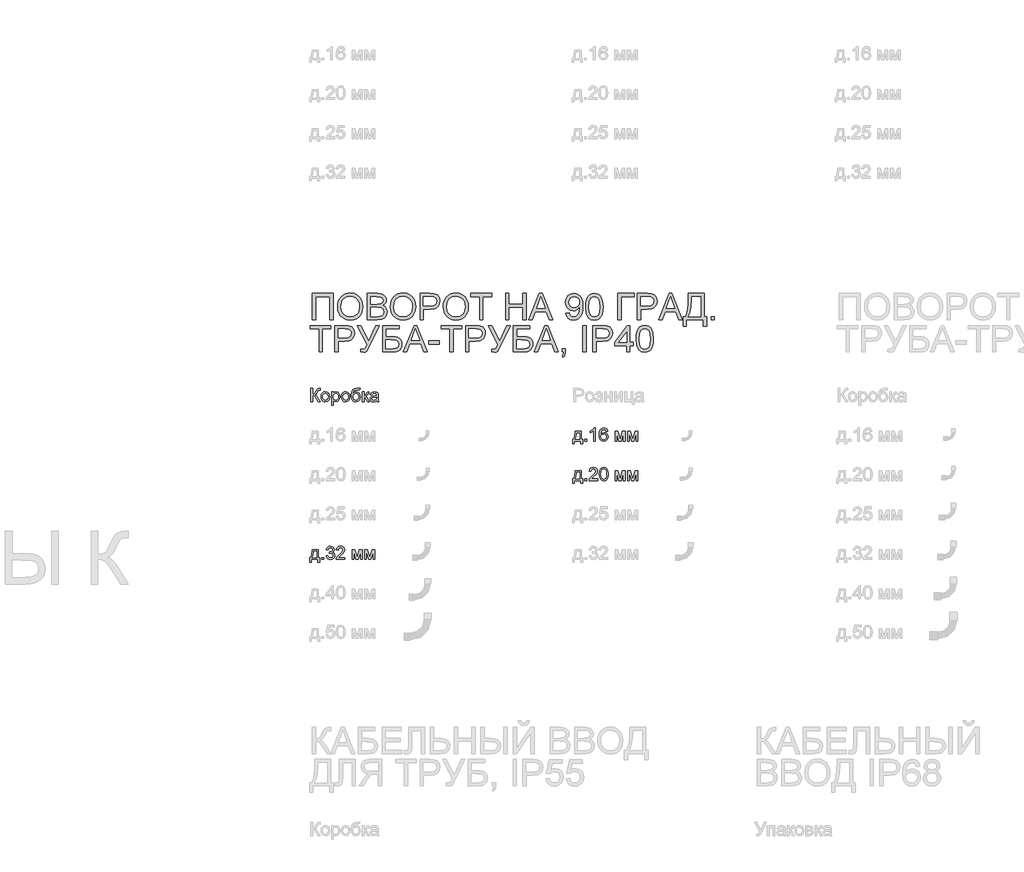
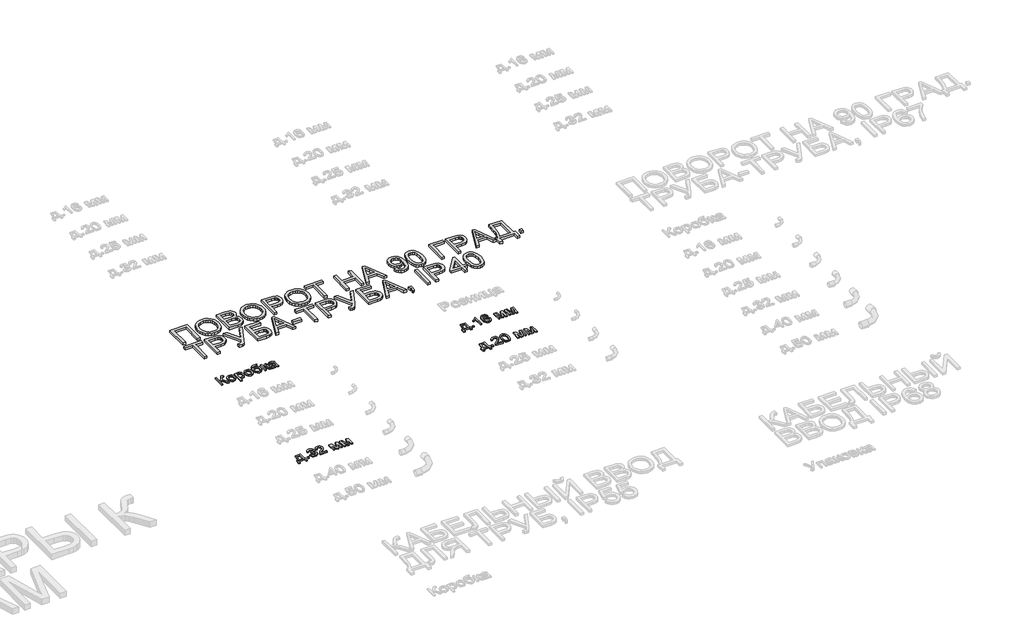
# One storey, part 63 of 98: 5 proxies.
"""IFC4 building model written with IfcOpenShell, lengths in millimetres."""

from ifc_helpers import new_model, si_unit, origin, origin_with_axes, place, context, project, spatial, polyline, outline, extrude, element, save

model = new_model("IFC4")

# Units and contexts
model_context = context("Model", 3, world=origin())
ifc_project = project(units=[si_unit("LENGTHUNIT", "METRE", prefix="MILLI")], contexts=[model_context])

# Site, building, storey
site = spatial("IfcSite", under=ifc_project)
building = spatial("IfcBuilding", under=site)
storey = spatial("IfcBuildingStorey", under=building, Name="Этаж 01", Elevation=0.0)

# Proxies
placement = place(None, origin())
element("IfcBuildingElementProxy", 1, Name="100", ObjectType="100", at=placement, inside=storey, context=model_context, shape_type="SweptSolid", body=[
    extrude(outline(polyline([(-36.4035925, -20659.0558563), (-23.8465538, -20659.0558563), (-23.8465538, -20703.005492), (-9.8057243, -20699.6822913), (-0.0078005, -20682.8700841), (6.9206438, -20668.8292546), (14.768793, -20661.8762849), (25.9891938, -20659.0558563), (34.2297505, -20659.2030091), (34.2297505, -20671.7600479), (31.4583728, -20671.6864715), (28.6869951, -20671.6128951), (18.8768086, -20674.6295274), (11.4210668, -20687.5544482), (2.5305853, -20703.2997976), (-6.1391671, -20708.4991965), (3.5545235, -20714.1768419), (13.113324, -20726.0103794), (34.2297505, -20759.5121665), (19.6616235, -20759.5121665), (1.807084, -20731.2097783), (-10.7622175, -20716.4331848), (-23.8465538, -20712.4232711), (-23.8465538, -20759.5121665), (-36.4035925, -20759.5121665), (-36.4035925, -20659.0558563)])), origin_with_axes(), (0.0, 0.0, 1.0), 10.0),
    extrude(outline(polyline([(40.5082699, -20722.6258651), (43.2244653, -20704.8387706), (51.3730515, -20692.3369141), (61.4407554, -20686.2116789), (73.4950221, -20684.1699338), (86.6866574, -20686.656203), (97.2234108, -20694.1150104), (104.1303953, -20705.957745), (106.4327234, -20721.5957955), (102.361496, -20743.9384953), (90.5034331, -20756.5813732), (73.4950221, -20761.0817963), (60.1439714, -20758.6047242), (49.6194807, -20751.1735079), (42.7860726, -20739.082453), (40.5082699, -20722.6258651)]), holes=[polyline([(53.0653087, -20722.6013396), (54.5184426, -20733.9658276), (58.8778442, -20742.0622972), (65.4384065, -20746.9091424), (73.4950221, -20748.5247575), (81.5148496, -20746.8999454), (88.0631492, -20742.025509), (92.4225508, -20733.8217405), (93.8756847, -20722.2089321), (92.4133537, -20711.175538), (88.026361, -20703.189433), (81.4688644, -20698.3425877), (73.4950221, -20696.7269726), (65.4384065, -20698.3364563), (58.8778442, -20703.1649075), (54.5184426, -20711.242983), (53.0653087, -20722.6013396)])]), origin_with_axes(), (0.0, 0.0, 1.0), 10.0),
    extrude(outline(polyline([(120.5593921, -20787.7655037), (120.5593921, -20685.7395637), (133.1164308, -20685.7395637), (133.1164308, -20698.0513478), (141.7984459, -20687.6402873), (153.5216188, -20684.1699338), (169.4386465, -20689.0259762), (179.8374442, -20702.7111864), (183.3445859, -20722.0617793), (179.3837231, -20742.4056537), (167.8812794, -20756.2625422), (152.0010399, -20761.0817963), (141.0749447, -20757.8566975), (133.1164308, -20749.7019799), (133.1164308, -20787.7655037), (120.5593921, -20787.7655037)]), holes=[polyline([(133.1164308, -20723.2144763), (134.4745285, -20734.4716653), (138.5488216, -20742.34434), (144.5606266, -20746.9796532), (151.7312598, -20748.5247575), (159.018389, -20746.9244709), (165.1834781, -20742.1236108), (169.3865299, -20733.9627619), (170.7875471, -20722.2825085), (169.4202524, -20711.0866332), (165.3183681, -20703.1035939), (159.3157603, -20698.3211279), (152.2462946, -20696.7269726), (145.1492378, -20698.4222955), (138.9167036, -20703.5082641), (134.566499, -20711.8254628), (133.1164308, -20723.2144763)])]), origin_with_axes(), (0.0, 0.0, 1.0), 10.0),
    extrude(outline(polyline([(194.3319948, -20722.6258651), (197.0481902, -20704.8387706), (205.1967764, -20692.3369141), (215.2644804, -20686.2116789), (227.3187471, -20684.1699338), (240.5103823, -20686.656203), (251.0471358, -20694.1150104), (257.9541202, -20705.957745), (260.2564484, -20721.5957955), (256.185221, -20743.9384953), (244.327158, -20756.5813732), (227.3187471, -20761.0817963), (213.9676963, -20758.6047242), (203.4432056, -20751.1735079), (196.6097975, -20739.082453), (194.3319948, -20722.6258651)]), holes=[polyline([(206.8890336, -20722.6013396), (208.3421675, -20733.9658276), (212.7015691, -20742.0622972), (219.2621314, -20746.9091424), (227.3187471, -20748.5247575), (235.3385746, -20746.8999454), (241.8868741, -20742.025509), (246.2462757, -20733.8217405), (247.6994096, -20722.2089321), (246.2370787, -20711.175538), (241.8500859, -20703.189433), (235.2925893, -20698.3425877), (227.3187471, -20696.7269726), (219.2621314, -20698.3364563), (212.7015691, -20703.1649075), (208.3421675, -20711.242983), (206.8890336, -20722.6013396)])]), origin_with_axes(), (0.0, 0.0, 1.0), 10.0),
    extrude(outline(polyline([(326.1809019, -20657.4862265), (337.1683108, -20657.4862265), (333.9309493, -20667.2841503), (327.5298025, -20670.8280802), (312.1523351, -20671.6128951), (291.4405788, -20674.5069001), (283.4943277, -20683.7775264), (280.8087892, -20700.1850634), (291.6858335, -20688.1675849), (305.7021375, -20684.1699338), (318.7680797, -20686.7113853), (329.3692125, -20694.3357396), (336.3957586, -20706.2949702), (338.7379407, -20721.8410502), (334.0903648, -20743.447986), (323.0661677, -20756.4832714), (305.7021375, -20761.0817963), (294.3683064, -20759.6010713), (285.873298, -20755.1588962), (275.0207791, -20740.002158), (271.2438573, -20707.8370089), (273.6258932, -20683.7438039), (280.772001, -20669.0499838), (292.8599902, -20661.5543882), (310.0676705, -20659.0558563), (324.0471863, -20658.7738134), (326.1809019, -20657.4862265)]), holes=[polyline([(326.1809019, -20721.4486427), (324.8197385, -20711.5679454), (320.7362484, -20703.6554169), (314.1756861, -20698.4590837), (305.3833064, -20696.7269726), (296.2169134, -20698.5571855), (289.4172278, -20704.0478243), (285.204979, -20712.598015), (283.8008961, -20723.6068837), (285.3521318, -20734.2785273), (290.005839, -20742.1113481), (296.9342833, -20746.9214052), (305.30973, -20748.5247575), (313.7280964, -20746.6700191), (320.3928918, -20741.105804), (324.7338994, -20732.4820369), (326.1809019, -20721.4486427)])]), origin_with_axes(), (0.0, 0.0, 1.0), 10.0),
    extrude(outline(polyline([(354.4342391, -20685.7395637), (366.9912779, -20685.7395637), (366.9912779, -20717.1321606), (375.4035129, -20714.8758177), (382.2951689, -20701.7301677), (388.0218653, -20690.3871396), (393.0741114, -20686.6960569), (402.2588985, -20685.7395637), (404.6623942, -20685.7395637), (404.6623942, -20698.3701789), (401.2778798, -20698.2966025), (395.1465133, -20699.6209776), (390.8300312, -20707.8860598), (385.7655224, -20716.8255923), (378.6653999, -20721.203388), (386.5871255, -20726.0900872), (394.3616983, -20736.3846517), (407.8016539, -20759.5121665), (393.5278325, -20759.5121665), (380.3576571, -20736.875161), (373.7357811, -20727.2979664), (366.9912779, -20724.9803098), (366.9912779, -20759.5121665), (354.4342391, -20759.5121665), (354.4342391, -20685.7395637)])), origin_with_axes(), (0.0, 0.0, 1.0), 10.0),
    extrude(outline(polyline([(462.7386985, -20750.0943874), (450.5618045, -20758.6047242), (437.1095862, -20761.0817963), (426.6157523, -20759.5918742), (418.874902, -20755.122108), (414.1016331, -20748.3346852), (412.5105434, -20739.8917934), (414.9140391, -20729.9589795), (421.2293467, -20722.7484924), (430.0217264, -20718.6282141), (440.886508, -20716.7397532), (462.6651221, -20712.4232711), (462.7386985, -20709.6273679), (459.2806078, -20700.3567416), (445.3991938, -20696.7269726), (432.6950022, -20699.142731), (426.637212, -20707.7143815), (414.0801733, -20706.1447517), (419.5125641, -20693.8820185), (430.4509221, -20686.6960569), (447.0178746, -20684.1699338), (462.2359264, -20686.4017513), (470.8321024, -20692.0058203), (474.6826006, -20700.5284199), (475.2957373, -20711.5158288), (475.2957373, -20727.1385509), (475.9333994, -20748.9539532), (478.434997, -20759.5121665), (465.8779582, -20759.5121665), (462.7386985, -20750.0943874)]), holes=[polyline([(462.7386985, -20724.9803098), (442.4806633, -20728.8308081), (431.6771954, -20730.8664218), (426.7843648, -20734.1773597), (425.0675822, -20739.0088766), (428.8077158, -20745.8024308), (439.782862, -20748.5247575), (452.4870536, -20745.5203879), (460.6785593, -20738.2485871), (462.6651221, -20728.5365025), (462.7386985, -20724.9803098)])]), origin_with_axes(), (0.0, 0.0, 1.0), 10.0),
])
element("IfcBuildingElementProxy", 2, Name="100", ObjectType="100", at=placement, inside=storey, context=model_context, shape_type="SweptSolid", body=[
    extrude(outline(polyline([(-26.9858135, -21885.7395637), (20.1030819, -21885.7395637), (20.1030819, -21946.9551277), (29.520861, -21946.9551277), (29.520861, -21979.9173545), (16.9638222, -21979.9173545), (16.9638222, -21959.5121665), (-34.8339627, -21959.5121665), (-34.8339627, -21979.9173545), (-47.3910015, -21979.9173545), (-47.3910015, -21946.9551277), (-39.5428522, -21946.9551277), (-29.8430303, -21923.0060098), (-26.9858135, -21885.7395637)]), holes=[polyline([(-15.9984045, -21898.2966025), (-18.9414605, -21926.905559), (-25.4161836, -21946.9551277), (7.5460431, -21946.9551277), (7.5460431, -21898.2966025), (-15.9984045, -21898.2966025)])]), origin_with_axes(), (0.0, 0.0, 1.0), 10.0),
    extrude(outline(polyline([(46.7867893, -21959.5121665), (46.7867893, -21946.9551277), (59.3438281, -21946.9551277), (59.3438281, -21959.5121665), (46.7867893, -21959.5121665)])), origin_with_axes(), (0.0, 0.0, 1.0), 10.0),
    extrude(outline(polyline([(79.7490161, -21932.8284591), (92.3060548, -21931.2588292), (99.2344991, -21944.4780556), (112.196208, -21948.5247575), (120.8046467, -21947.1329373), (127.4510481, -21942.9574767), (133.1164308, -21929.1741646), (127.500099, -21916.1879302), (113.2262776, -21911.049845), (104.4216352, -21912.4232711), (105.8195868, -21899.8662323), (107.830675, -21900.0133851), (122.079971, -21896.4081416), (126.8256487, -21891.8341421), (128.4075413, -21885.3226308), (123.8212791, -21875.5001815), (112.0000043, -21871.6128951), (100.0315767, -21875.5369697), (93.8756847, -21887.3091935), (81.3186459, -21885.7395637), (85.01586, -21874.4639805), (91.5948163, -21866.0456142), (100.5956625, -21860.8032958), (111.5585459, -21859.0558563), (126.7030214, -21862.5016843), (137.2980228, -21871.9194634), (140.9645801, -21884.5868668), (137.4819638, -21896.1628869), (127.181268, -21904.47702), (140.8664782, -21913.0609332), (145.6734696, -21929.3948938), (143.2699739, -21941.6331015), (136.0594868, -21951.860221), (125.1763111, -21958.7764025), (111.7547496, -21961.0817963), (99.6146438, -21959.1136276), (89.7308809, -21953.2091216), (82.8576189, -21944.1776186), (79.7490161, -21932.8284591)])), origin_with_axes(), (0.0, 0.0, 1.0), 10.0),
    extrude(outline(polyline([(221.0157022, -21946.9551277), (221.0157022, -21959.5121665), (155.0912487, -21959.5121665), (156.4401493, -21950.8546768), (164.0675694, -21937.5250859), (179.7883933, -21922.9692216), (201.4689055, -21902.0489988), (206.8890336, -21887.8242283), (201.7754739, -21876.3095219), (188.4213574, -21871.6128951), (174.5031553, -21876.1991573), (169.2179173, -21888.8788234), (156.6608785, -21887.3091935), (159.705102, -21875.1629563), (166.2871241, -21866.2908689), (176.0635881, -21860.8646095), (188.6911376, -21859.0558563), (201.4106576, -21861.0669445), (211.1687275, -21867.1002093), (217.3767361, -21876.1133182), (219.4460724, -21887.0639389), (217.2142549, -21898.9710528), (209.7953014, -21911.2828369), (191.8058718, -21928.4874515), (177.3603721, -21940.5662437), (171.6949894, -21946.9551277), (221.0157022, -21946.9551277)])), origin_with_axes(), (0.0, 0.0, 1.0), 10.0),
    extrude(outline(polyline([(275.9527468, -21885.7395637), (297.5596827, -21885.7395637), (314.2124743, -21944.7968867), (332.1651157, -21885.7395637), (352.8646093, -21885.7395637), (352.8646093, -21959.5121665), (340.3075705, -21959.5121665), (340.3075705, -21900.111487), (322.2568273, -21959.5121665), (305.7757139, -21959.5121665), (288.5097856, -21897.2665329), (288.5097856, -21959.5121665), (275.9527468, -21959.5121665), (275.9527468, -21885.7395637)])), origin_with_axes(), (0.0, 0.0, 1.0), 10.0),
    extrude(outline(polyline([(371.7001674, -21885.7395637), (393.3071033, -21885.7395637), (409.9598949, -21944.7968867), (427.9125363, -21885.7395637), (448.6120299, -21885.7395637), (448.6120299, -21959.5121665), (436.0549911, -21959.5121665), (436.0549911, -21900.111487), (418.0042479, -21959.5121665), (401.5231345, -21959.5121665), (384.2572062, -21897.2665329), (384.2572062, -21959.5121665), (371.7001674, -21959.5121665), (371.7001674, -21885.7395637)])), origin_with_axes(), (0.0, 0.0, 1.0), 10.0),
])
element("IfcBuildingElementProxy", 3, Name="100", ObjectType="100", at=placement, inside=storey, context=model_context, shape_type="SweptSolid", body=[
    extrude(outline(polyline([(1973.0141865, -20985.7395637), (2020.1030819, -20985.7395637), (2020.1030819, -21046.9551277), (2029.520861, -21046.9551277), (2029.520861, -21079.9173545), (2016.9638222, -21079.9173545), (2016.9638222, -21059.5121665), (1965.1660373, -21059.5121665), (1965.1660373, -21079.9173545), (1952.6089985, -21079.9173545), (1952.6089985, -21046.9551277), (1960.4571478, -21046.9551277), (1970.1569697, -21023.0060098), (1973.0141865, -20985.7395637)]), holes=[polyline([(1984.0015955, -20998.2966025), (1981.0585395, -21026.905559), (1974.5838164, -21046.9551277), (2007.5460431, -21046.9551277), (2007.5460431, -20998.2966025), (1984.0015955, -20998.2966025)])]), origin_with_axes(), (0.0, 0.0, 1.0), 10.0),
    extrude(outline(polyline([(2046.7867893, -21059.5121665), (2046.7867893, -21046.9551277), (2059.3438281, -21046.9551277), (2059.3438281, -21059.5121665), (2046.7867893, -21059.5121665)])), origin_with_axes(), (0.0, 0.0, 1.0), 10.0),
    extrude(outline(polyline([(2126.8379114, -21059.5121665), (2114.2808727, -21059.5121665), (2114.2808727, -20981.2268779), (2102.3860215, -20989.7004265), (2089.1667951, -20996.0402596), (2089.1667951, -20984.1699338), (2107.5731576, -20972.4222355), (2118.7445076, -20959.0558563), (2126.8379114, -20959.0558563), (2126.8379114, -21059.5121665)])), origin_with_axes(), (0.0, 0.0, 1.0), 10.0),
    extrude(outline(polyline([(2221.0157022, -20985.7395637), (2208.4586634, -20987.3091935), (2203.700723, -20976.8368194), (2191.1191587, -20971.6128951), (2179.7883933, -20974.6540529), (2171.2167428, -20986.0706575), (2167.6482874, -21008.4501455), (2178.7215355, -20998.4314925), (2192.4435339, -20995.1573428), (2204.0440795, -20997.3952916), (2213.7806896, -21004.109138), (2220.3841715, -21014.3669143), (2222.5853321, -21027.2366527), (2218.4405282, -21044.5638947), (2207.0361864, -21056.8266279), (2190.5795985, -21061.0817963), (2176.3333682, -21058.2613677), (2164.9872743, -21049.8000818), (2157.5652551, -21034.8640728), (2155.0912487, -21012.6194748), (2157.8381009, -20987.6096305), (2166.0786576, -20970.5092491), (2177.3297153, -20961.9192045), (2191.9039737, -20959.0558563), (2202.9220394, -20960.8278213), (2211.7450759, -20966.1437161), (2217.9254935, -20974.5866079), (2221.0157022, -20985.7395637)]), holes=[polyline([(2167.6482874, -21027.040449), (2170.5545552, -21037.9174933), (2178.2800771, -21045.8146935), (2189.5985798, -21048.5247575), (2197.8851218, -21047.1206746), (2204.3996988, -21042.9084257), (2208.6211447, -21036.2865498), (2210.0282933, -21027.6535857), (2208.6395388, -21019.3670437), (2204.4732752, -21013.0486705), (2197.8483336, -21009.0479538), (2189.083545, -21007.7143815), (2173.8900186, -21013.0486705), (2169.2087202, -21019.2137596), (2167.6482874, -21027.040449)])]), origin_with_axes(), (0.0, 0.0, 1.0), 10.0),
    extrude(outline(polyline([(2275.9527468, -20985.7395637), (2297.5596827, -20985.7395637), (2314.2124743, -21044.7968867), (2332.1651157, -20985.7395637), (2352.8646093, -20985.7395637), (2352.8646093, -21059.5121665), (2340.3075705, -21059.5121665), (2340.3075705, -21000.111487), (2322.2568273, -21059.5121665), (2305.7757139, -21059.5121665), (2288.5097856, -20997.2665329), (2288.5097856, -21059.5121665), (2275.9527468, -21059.5121665), (2275.9527468, -20985.7395637)])), origin_with_axes(), (0.0, 0.0, 1.0), 10.0),
    extrude(outline(polyline([(2371.7001674, -20985.7395637), (2393.3071033, -20985.7395637), (2409.9598949, -21044.7968867), (2427.9125363, -20985.7395637), (2448.6120299, -20985.7395637), (2448.6120299, -21059.5121665), (2436.0549911, -21059.5121665), (2436.0549911, -21000.111487), (2418.0042479, -21059.5121665), (2401.5231345, -21059.5121665), (2384.2572062, -20997.2665329), (2384.2572062, -21059.5121665), (2371.7001674, -21059.5121665), (2371.7001674, -20985.7395637)])), origin_with_axes(), (0.0, 0.0, 1.0), 10.0),
])
element("IfcBuildingElementProxy", 4, Name="100", ObjectType="100", at=placement, inside=storey, context=model_context, shape_type="SweptSolid", body=[
    extrude(outline(polyline([(1973.0141865, -21285.7395637), (2020.1030819, -21285.7395637), (2020.1030819, -21346.9551277), (2029.520861, -21346.9551277), (2029.520861, -21379.9173545), (2016.9638222, -21379.9173545), (2016.9638222, -21359.5121665), (1965.1660373, -21359.5121665), (1965.1660373, -21379.9173545), (1952.6089985, -21379.9173545), (1952.6089985, -21346.9551277), (1960.4571478, -21346.9551277), (1970.1569697, -21323.0060098), (1973.0141865, -21285.7395637)]), holes=[polyline([(1984.0015955, -21298.2966025), (1981.0585395, -21326.905559), (1974.5838164, -21346.9551277), (2007.5460431, -21346.9551277), (2007.5460431, -21298.2966025), (1984.0015955, -21298.2966025)])]), origin_with_axes(), (0.0, 0.0, 1.0), 10.0),
    extrude(outline(polyline([(2046.7867893, -21359.5121665), (2046.7867893, -21346.9551277), (2059.3438281, -21346.9551277), (2059.3438281, -21359.5121665), (2046.7867893, -21359.5121665)])), origin_with_axes(), (0.0, 0.0, 1.0), 10.0),
    extrude(outline(polyline([(2144.1038398, -21346.9551277), (2144.1038398, -21359.5121665), (2078.1793862, -21359.5121665), (2079.5282869, -21350.8546768), (2087.1557069, -21337.5250859), (2102.8765308, -21322.9692216), (2124.5570431, -21302.0489988), (2129.9771711, -21287.8242283), (2124.8636114, -21276.3095219), (2111.509495, -21271.6128951), (2097.5912928, -21276.1991573), (2092.3060548, -21288.8788234), (2079.7490161, -21287.3091935), (2082.7932396, -21275.1629563), (2089.3752616, -21266.2908689), (2099.1517256, -21260.8646095), (2111.7792751, -21259.0558563), (2124.4987951, -21261.0669445), (2134.256865, -21267.1002093), (2140.4648737, -21276.1133182), (2142.5342099, -21287.0639389), (2140.3023925, -21298.9710528), (2132.8834389, -21311.2828369), (2114.8940093, -21328.4874515), (2100.4485097, -21340.5662437), (2094.7831269, -21346.9551277), (2144.1038398, -21346.9551277)])), origin_with_axes(), (0.0, 0.0, 1.0), 10.0),
    extrude(outline(polyline([(2156.6608785, -21310.0933518), (2160.3519612, -21281.1900897), (2171.3148447, -21264.5250353), (2189.6231053, -21259.0558563), (2204.2893342, -21262.2932179), (2214.4183518, -21271.6251578), (2220.3044637, -21286.4875904), (2222.5853321, -21310.0933518), (2218.9310376, -21338.8739865), (2208.0049423, -21355.5758291), (2199.7735827, -21359.7053045), (2189.6231053, -21361.0817963), (2176.5755572, -21358.6905633), (2166.6672688, -21351.5168644), (2159.1624761, -21334.5268476), (2156.6608785, -21310.0933518)]), holes=[polyline([(2169.2179173, -21310.0688263), (2170.6894453, -21329.8210238), (2175.1040292, -21341.2529568), (2181.6768542, -21346.7068073), (2189.6231053, -21348.5247575), (2197.5693564, -21346.700676), (2204.1421814, -21341.2284313), (2208.5567653, -21329.7903669), (2210.0282933, -21310.0688263), (2208.6058162, -21290.7611529), (2204.3383851, -21279.2403151), (2197.7778228, -21273.5197501), (2189.4759525, -21271.6128951), (2181.6155405, -21273.2928895), (2175.3002329, -21278.3328729), (2170.7384962, -21290.5710806), (2169.2179173, -21310.0688263)])]), origin_with_axes(), (0.0, 0.0, 1.0), 10.0),
    extrude(outline(polyline([(2275.9527468, -21285.7395637), (2297.5596827, -21285.7395637), (2314.2124743, -21344.7968867), (2332.1651157, -21285.7395637), (2352.8646093, -21285.7395637), (2352.8646093, -21359.5121665), (2340.3075705, -21359.5121665), (2340.3075705, -21300.111487), (2322.2568273, -21359.5121665), (2305.7757139, -21359.5121665), (2288.5097856, -21297.2665329), (2288.5097856, -21359.5121665), (2275.9527468, -21359.5121665), (2275.9527468, -21285.7395637)])), origin_with_axes(), (0.0, 0.0, 1.0), 10.0),
    extrude(outline(polyline([(2371.7001674, -21285.7395637), (2393.3071033, -21285.7395637), (2409.9598949, -21344.7968867), (2427.9125363, -21285.7395637), (2448.6120299, -21285.7395637), (2448.6120299, -21359.5121665), (2436.0549911, -21359.5121665), (2436.0549911, -21300.111487), (2418.0042479, -21359.5121665), (2401.5231345, -21359.5121665), (2384.2572062, -21297.2665329), (2384.2572062, -21359.5121665), (2371.7001674, -21359.5121665), (2371.7001674, -21285.7395637)])), origin_with_axes(), (0.0, 0.0, 1.0), 10.0),
])
element("IfcBuildingElementProxy", 5, Name="200", ObjectType="200", at=placement, inside=storey, context=model_context, shape_type="SweptSolid", body=[
    extrude(outline(polyline([(-25.4161836, -19936.6247283), (131.546801, -19936.6247283), (131.546801, -20137.5373486), (106.4327234, -20137.5373486), (106.4327234, -19961.7388059), (-0.3021061, -19961.7388059), (-0.3021061, -20137.5373486), (-25.4161836, -20137.5373486), (-25.4161836, -19936.6247283)])), origin_with_axes(), (0.0, 0.0, 1.0), 20.0),
    extrude(outline(polyline([(166.0786576, -20039.7297888), (167.7525207, -20016.1638814), (172.7741099, -19995.3019065), (181.1434253, -19977.1438644), (192.8604668, -19961.6897549), (207.2231931, -19949.3503797), (223.5295625, -19940.5365402), (241.7795752, -19935.2482365), (261.973231, -19933.4854686), (288.3258446, -19936.7964066), (311.9561314, -19946.7292204), (331.5765045, -19962.5849344), (345.8993768, -19983.6645728), (354.6549683, -20008.9503286), (357.5734988, -20037.424395), (354.5016842, -20066.2786061), (345.2862402, -20091.9199812), (330.4360703, -20113.0364077), (310.460078, -20128.3157733), (287.0321262, -20137.5863995), (261.8260782, -20140.6766083), (235.0687944, -20137.2614371), (211.3036175, -20127.0159236), (191.7322954, -20110.865904), (177.5565758, -20089.7372147), (168.9481372, -20065.4263462), (166.0786576, -20039.7297888)]), holes=[polyline([(191.1927351, -20039.9750435), (196.2143244, -20071.4044286), (211.2790921, -20095.3535465), (233.9222289, -20110.5102847), (261.6789254, -20115.5625308), (289.8402921, -20110.4612338), (312.5202171, -20095.1573428), (321.243619, -20083.8848253), (327.4746202, -20070.4724609), (332.4594213, -20037.2281913), (330.3257057, -20014.995856), (323.924559, -19995.7801531), (313.421528, -19980.0654606), (298.9821597, -19968.3361563), (281.5629473, -19961.0336987), (262.1203838, -19958.5995462), (235.1055826, -19963.2900416), (212.1374834, -19977.3615279), (202.974156, -19988.3106158), (196.4289222, -20002.3958977), (191.1927351, -20039.9750435)])]), origin_with_axes(), (0.0, 0.0, 1.0), 20.0),
    extrude(outline(polyline([(392.1053554, -20137.5373486), (392.1053554, -19936.6247283), (468.7719632, -19936.6247283), (489.8577329, -19938.1023877), (506.3204522, -19942.5353657), (518.9388046, -19950.034027), (528.4914738, -19960.7087363), (534.5063444, -19973.265775), (536.5113013, -19986.411425), (534.8251755, -19998.5086113), (529.766798, -20009.8822963), (521.2993808, -20019.8335043), (509.3861355, -20027.6632594), (523.6170373, -20035.0944757), (534.132331, -20046.4007157), (540.6254483, -20060.8339526), (542.7898207, -20077.6461598), (536.8791833, -20104.6486982), (522.2374799, -20123.8766639), (500.3852893, -20134.0792579), (468.183352, -20137.5373486), (392.1053554, -20137.5373486)]), holes=[polyline([(417.219433, -20112.4232711), (468.7229123, -20112.4232711), (487.3622667, -20111.4422524), (503.1321416, -20105.9730734), (513.5799902, -20094.8139862), (517.6757431, -20077.8914145), (512.8687517, -20058.3691433), (506.5718382, -20051.3119403), (497.2950806, -20046.7195467), (466.2703657, -20043.3595578), (417.219433, -20043.3595578), (417.219433, -20112.4232711)]), polyline([(417.219433, -20018.2454803), (463.082055, -20018.2454803), (489.8638643, -20016.0872393), (505.9770957, -20006.7920875), (511.3972237, -19990.4336015), (506.3449777, -19974.05059), (491.8749525, -19964.3630308), (459.5994388, -19961.7388059), (417.219433, -19961.7388059), (417.219433, -20018.2454803)])]), origin_with_axes(), (0.0, 0.0, 1.0), 20.0),
    extrude(outline(polyline([(567.9038982, -20039.7297888), (569.5777613, -20016.1638814), (574.5993505, -19995.3019065), (582.9686659, -19977.1438644), (594.6857074, -19961.6897549), (609.0484337, -19949.3503797), (625.3548031, -19940.5365402), (643.6048158, -19935.2482365), (663.7984716, -19933.4854686), (690.1510852, -19936.7964066), (713.781372, -19946.7292204), (733.4017451, -19962.5849344), (747.7246174, -19983.6645728), (756.4802089, -20008.9503286), (759.3987394, -20037.424395), (756.3269248, -20066.2786061), (747.1114808, -20091.9199812), (732.2613109, -20113.0364077), (712.2853186, -20128.3157733), (688.8573668, -20137.5863995), (663.6513188, -20140.6766083), (636.894035, -20137.2614371), (613.1288581, -20127.0159236), (593.557536, -20110.865904), (579.3818164, -20089.7372147), (570.7733778, -20065.4263462), (567.9038982, -20039.7297888)]), holes=[polyline([(593.0179757, -20039.9750435), (598.039565, -20071.4044286), (613.1043327, -20095.3535465), (635.7474695, -20110.5102847), (663.504166, -20115.5625308), (691.6655327, -20110.4612338), (714.3454577, -20095.1573428), (723.0688596, -20083.8848253), (729.2998608, -20070.4724609), (734.2846619, -20037.2281913), (732.1509463, -20014.995856), (725.7497996, -19995.7801531), (715.2467686, -19980.0654606), (700.8074003, -19968.3361563), (683.3881878, -19961.0336987), (663.9456244, -19958.5995462), (636.9308232, -19963.2900416), (613.962724, -19977.3615279), (604.7993966, -19988.3106158), (598.2541628, -20002.3958977), (593.0179757, -20039.9750435)])]), origin_with_axes(), (0.0, 0.0, 1.0), 20.0),
    extrude(outline(polyline([(793.930596, -20137.5373486), (793.930596, -19936.6247283), (868.3899119, -19936.6247283), (898.4090827, -19938.5377147), (922.8119217, -19947.9309683), (931.6840091, -19956.2573641), (938.6308475, -19967.3551376), (943.1190078, -19980.4456053), (944.6150613, -19994.7500836), (940.5744907, -20018.4294213), (928.4527789, -20038.160159), (918.7452928, -20045.9286004), (905.7851167, -20051.4774872), (870.1066945, -20055.9165966), (819.0446736, -20055.9165966), (819.0446736, -20137.5373486), (793.930596, -20137.5373486)]), holes=[polyline([(819.0446736, -20030.8025191), (871.5782225, -20030.8025191), (893.8473459, -20028.4971252), (908.5626257, -20021.5809437), (916.7663942, -20010.4831702), (919.5009837, -19995.6330003), (917.8884343, -19984.3512858), (913.0507861, -19974.8354049), (905.5889129, -19967.6739687), (896.1036888, -19963.4555885), (870.9896113, -19961.7388059), (819.0446736, -19961.7388059), (819.0446736, -20030.8025191)])]), origin_with_axes(), (0.0, 0.0, 1.0), 20.0),
    extrude(outline(polyline([(969.7291388, -20039.7297888), (971.4030019, -20016.1638814), (976.4245911, -19995.3019065), (984.7939065, -19977.1438644), (996.510948, -19961.6897549), (1010.8736743, -19949.3503797), (1027.1800437, -19940.5365402), (1045.4300564, -19935.2482365), (1065.6237122, -19933.4854686), (1091.9763258, -19936.7964066), (1115.6066126, -19946.7292204), (1135.2269857, -19962.5849344), (1149.549858, -19983.6645728), (1158.3054495, -20008.9503286), (1161.22398, -20037.424395), (1158.1521654, -20066.2786061), (1148.9367214, -20091.9199812), (1134.0865515, -20113.0364077), (1114.1105592, -20128.3157733), (1090.6826074, -20137.5863995), (1065.4765594, -20140.6766083), (1038.7192756, -20137.2614371), (1014.9540987, -20127.0159236), (995.3827766, -20110.865904), (981.207057, -20089.7372147), (972.5986184, -20065.4263462), (969.7291388, -20039.7297888)]), holes=[polyline([(994.8432163, -20039.9750435), (999.8648056, -20071.4044286), (1014.9295733, -20095.3535465), (1037.5727101, -20110.5102847), (1065.3294066, -20115.5625308), (1093.4907733, -20110.4612338), (1116.1706983, -20095.1573428), (1124.8941002, -20083.8848253), (1131.1251014, -20070.4724609), (1136.1099025, -20037.2281913), (1133.9761869, -20014.995856), (1127.5750402, -19995.7801531), (1117.0720092, -19980.0654606), (1102.6326409, -19968.3361563), (1085.2134284, -19961.0336987), (1065.770865, -19958.5995462), (1038.7560638, -19963.2900416), (1015.7879646, -19977.3615279), (1006.6246372, -19988.3106158), (1000.0794034, -20002.3958977), (994.8432163, -20039.9750435)])]), origin_with_axes(), (0.0, 0.0, 1.0), 20.0),
    extrude(outline(polyline([(1245.9839917, -20137.5373486), (1245.9839917, -19961.7388059), (1180.0595382, -19961.7388059), (1180.0595382, -19936.6247283), (1337.0225228, -19936.6247283), (1337.0225228, -19961.7388059), (1271.0980692, -19961.7388059), (1271.0980692, -20137.5373486), (1245.9839917, -20137.5373486)])), origin_with_axes(), (0.0, 0.0, 1.0), 20.0),
    extrude(outline(polyline([(1443.7573523, -20137.5373486), (1443.7573523, -19936.6247283), (1468.8714299, -19936.6247283), (1468.8714299, -20018.2454803), (1575.6062594, -20018.2454803), (1575.6062594, -19936.6247283), (1600.7203369, -19936.6247283), (1600.7203369, -20137.5373486), (1575.6062594, -20137.5373486), (1575.6062594, -20043.3595578), (1468.8714299, -20043.3595578), (1468.8714299, -20137.5373486), (1443.7573523, -20137.5373486)])), origin_with_axes(), (0.0, 0.0, 1.0), 20.0),
    extrude(outline(polyline([(1621.2726777, -20137.5373486), (1701.4709527, -19936.6247283), (1722.8571593, -19936.6247283), (1803.0554343, -20137.5373486), (1776.5188797, -20137.5373486), (1753.5139923, -20074.7521548), (1670.7650688, -20074.7521548), (1647.8092323, -20137.5373486), (1621.2726777, -20137.5373486)]), holes=[polyline([(1679.9866441, -20049.6380772), (1744.3414678, -20049.6380772), (1726.2416737, -20000.243788), (1712.164056, -19961.7388059), (1699.6560682, -19995.9273059), (1679.9866441, -20049.6380772)])]), origin_with_axes(), (0.0, 0.0, 1.0), 20.0),
    extrude(outline(polyline([(1902.0892674, -20087.3091935), (1927.2033449, -20084.1699338), (1931.4953015, -20098.4253612), (1938.4850594, -20108.1313145), (1948.0009404, -20113.7047267), (1959.8712661, -20115.5625308), (1980.2028777, -20110.7800648), (1993.9861898, -20098.0022969), (2002.202221, -20076.1746318), (2005.83199, -20047.0383778), (2005.6848372, -20042.1332845), (1996.984428, -20052.7528115), (1985.5984803, -20061.1650464), (1972.3485971, -20066.6464881), (1958.0563816, -20068.4736354), (1935.1557274, -20064.0100005), (1916.0933087, -20050.6190959), (1903.2358329, -20029.931865), (1898.9500077, -20003.5792514), (1903.4442994, -19976.3559838), (1916.9271745, -19955.0188281), (1937.1790783, -19941.2232533), (1961.9804562, -19936.6247283), (1980.7117811, -19939.2489532), (1997.7631116, -19947.1216279), (2012.0246703, -19959.8503449), (2022.3866798, -19977.0426969), (2028.695856, -20000.8078737), (2030.7989148, -20033.2550657), (2028.7019874, -20067.6581636), (2022.4112053, -20094.2499005), (2011.9817507, -20114.2320242), (1997.468806, -20128.8062826), (1979.4977705, -20137.7090269), (1958.6940437, -20140.6766083), (1937.2219979, -20137.175598), (1920.0909597, -20126.672567), (1908.1102694, -20109.829703), (1902.0892674, -20087.3091935)]), holes=[polyline([(2005.6848372, -20002.9906402), (2002.9747732, -19985.9699666), (1994.8445811, -19972.8733676), (1982.2262287, -19964.5224463), (1966.0516836, -19961.7388059), (1949.2762646, -19964.7370441), (1935.8363091, -19973.7317589), (1927.0071412, -19987.4966769), (1924.0640852, -20004.8055248), (1926.8477256, -20020.3240136), (1935.1986469, -20032.6419291), (1948.3075087, -20040.6801506), (1965.3649705, -20043.3595578), (1981.4107569, -20040.6801506), (1994.3295463, -20032.6419291), (2002.8460145, -20019.8702925), (2005.6848372, -20002.9906402)])]), origin_with_axes(), (0.0, 0.0, 1.0), 20.0),
    extrude(outline(polyline([(2052.7737326, -20038.6997192), (2054.6192739, -20006.5407015), (2060.155898, -19980.8931951), (2069.3284224, -19961.3647925), (2082.0816649, -19947.5630863), (2098.507596, -19939.3593178), (2118.6981861, -19936.6247283), (2134.1737554, -19938.2434091), (2148.0306439, -19943.0994514), (2159.6189267, -19951.002783), (2168.2886791, -19961.7633313), (2180.0609029, -19991.4881965), (2184.6226397, -20038.6997192), (2182.7954924, -20070.674796), (2177.3140507, -20096.2609888), (2168.1967086, -20115.8077854), (2155.4618602, -20129.6646739), (2138.9991409, -20137.9236247), (2118.6981861, -20140.6766083), (2092.6030899, -20135.8941424), (2072.7865131, -20121.5467446), (2064.0309216, -20106.4175975), (2057.7769277, -20087.5667109), (2052.7737326, -20038.6997192)]), holes=[polyline([(2077.8878101, -20038.6506683), (2080.8308661, -20078.1550632), (2089.660034, -20101.0189292), (2102.8056839, -20111.9266304), (2118.6981861, -20115.5625308), (2134.5906883, -20111.9143676), (2147.7363383, -20100.9698783), (2156.5655062, -20078.0937496), (2159.5085621, -20038.6506683), (2156.663608, -20000.0353215), (2148.1287457, -19976.9936459), (2135.0076213, -19965.5525159), (2118.4038805, -19961.7388059), (2102.6830566, -19965.0987947), (2090.0524414, -19975.1787614), (2080.928968, -19999.6551768), (2077.8878101, -20038.6506683)])]), origin_with_axes(), (0.0, 0.0, 1.0), 20.0),
    extrude(outline(polyline([(2297.6359886, -19936.6247283), (2423.2063763, -19936.6247283), (2423.2063763, -19961.7388059), (2322.7500661, -19961.7388059), (2322.7500661, -20137.5373486), (2297.6359886, -20137.5373486), (2297.6359886, -19936.6247283)])), origin_with_axes(), (0.0, 0.0, 1.0), 20.0),
    extrude(outline(polyline([(2445.1811941, -20137.5373486), (2445.1811941, -19936.6247283), (2519.6405099, -19936.6247283), (2549.6596807, -19938.5377147), (2574.0625198, -19947.9309683), (2582.9346072, -19956.2573641), (2589.8814456, -19967.3551376), (2594.3696059, -19980.4456053), (2595.8656593, -19994.7500836), (2591.8250888, -20018.4294213), (2579.703377, -20038.160159), (2569.9958909, -20045.9286004), (2557.0357148, -20051.4774872), (2521.3572926, -20055.9165966), (2470.2952717, -20055.9165966), (2470.2952717, -20137.5373486), (2445.1811941, -20137.5373486)]), holes=[polyline([(2470.2952717, -20030.8025191), (2522.8288206, -20030.8025191), (2545.097944, -20028.4971252), (2559.8132238, -20021.5809437), (2568.0169923, -20010.4831702), (2570.7515818, -19995.6330003), (2569.1390324, -19984.3512858), (2564.3013842, -19974.8354049), (2556.839511, -19967.6739687), (2547.3542869, -19963.4555885), (2522.2402094, -19961.7388059), (2470.2952717, -19961.7388059), (2470.2952717, -20030.8025191)])]), origin_with_axes(), (0.0, 0.0, 1.0), 20.0),
    extrude(outline(polyline([(2607.0002211, -20137.5373486), (2687.198496, -19936.6247283), (2708.5847027, -19936.6247283), (2788.7829776, -20137.5373486), (2762.246423, -20137.5373486), (2739.2415356, -20074.7521548), (2656.4926121, -20074.7521548), (2633.5367756, -20137.5373486), (2607.0002211, -20137.5373486)]), holes=[polyline([(2665.7141875, -20049.6380772), (2730.0690112, -20049.6380772), (2711.969217, -20000.243788), (2697.8915993, -19961.7388059), (2685.3836115, -19995.9273059), (2665.7141875, -20049.6380772)])]), origin_with_axes(), (0.0, 0.0, 1.0), 20.0),
    extrude(outline(polyline([(2834.4493959, -19936.6247283), (2953.7412643, -19936.6247283), (2953.7412643, -20112.4232711), (2972.5768224, -20112.4232711), (2972.5768224, -20184.626244), (2947.4627449, -20184.626244), (2947.4627449, -20137.5373486), (2818.7530975, -20137.5373486), (2818.7530975, -20184.626244), (2793.6390199, -20184.626244), (2793.6390199, -20112.4232711), (2809.3353184, -20112.4232711), (2820.3227273, -20089.6421785), (2828.1708766, -20057.5965911), (2832.8797661, -20016.2865087), (2834.4493959, -19965.7119314), (2834.4493959, -19936.6247283)]), holes=[polyline([(2928.6271867, -19961.7388059), (2859.5634735, -19961.7388059), (2859.5634735, -19971.843298), (2854.4621765, -20040.6617566), (2846.9083329, -20080.4298002), (2834.4493959, -20112.4232711), (2928.6271867, -20112.4232711), (2928.6271867, -19961.7388059)])]), origin_with_axes(), (0.0, 0.0, 1.0), 20.0),
    extrude(outline(polyline([(3007.108679, -20137.5373486), (3007.108679, -20112.4232711), (3032.2227566, -20112.4232711), (3032.2227566, -20137.5373486), (3007.108679, -20137.5373486)])), origin_with_axes(), (0.0, 0.0, 1.0), 20.0),
    extrude(outline(polyline([(24.8119715, -20381.4869843), (24.8119715, -20205.6884415), (-41.1124821, -20205.6884415), (-41.1124821, -20180.574364), (115.8505025, -20180.574364), (115.8505025, -20205.6884415), (49.926049, -20205.6884415), (49.926049, -20381.4869843), (24.8119715, -20381.4869843)])), origin_with_axes(), (0.0, 0.0, 1.0), 20.0),
    extrude(outline(polyline([(144.1038398, -20381.4869843), (144.1038398, -20180.574364), (218.5631556, -20180.574364), (248.5823264, -20182.4873504), (272.9851654, -20191.880604), (281.8572528, -20200.2069998), (288.8040912, -20211.3047733), (293.2922515, -20224.395241), (294.788305, -20238.6997192), (290.7477344, -20262.379057), (278.6260227, -20282.1097947), (268.9185365, -20289.8782361), (255.9583604, -20295.4271229), (220.2799382, -20299.8662323), (169.2179173, -20299.8662323), (169.2179173, -20381.4869843), (144.1038398, -20381.4869843)]), holes=[polyline([(169.2179173, -20274.7521548), (221.7514662, -20274.7521548), (244.0205896, -20272.4467609), (258.7358695, -20265.5305794), (266.9396379, -20254.4328059), (269.6742274, -20239.582636), (268.061678, -20228.3009215), (263.2240298, -20218.7850406), (255.7621567, -20211.6236044), (246.2769325, -20207.4052242), (221.162855, -20205.6884415), (169.2179173, -20205.6884415), (169.2179173, -20274.7521548)])]), origin_with_axes(), (0.0, 0.0, 1.0), 20.0),
    extrude(outline(polyline([(315.193493, -20180.574364), (343.0053718, -20180.574364), (403.0927644, -20299.5719267), (457.1468922, -20180.574364), (484.7135164, -20180.574364), (408.439316, -20337.0958902), (387.6907715, -20375.5518214), (377.8437968, -20382.3576384), (364.4896803, -20384.626244), (341.8772004, -20381.4869843), (341.8772004, -20359.5121665), (361.6447262, -20359.5121665), (376.3109551, -20353.9203601), (389.8980635, -20328.4629261), (315.193493, -20180.574364)])), origin_with_axes(), (0.0, 0.0, 1.0), 20.0),
    extrude(outline(polyline([(508.257964, -20180.574364), (633.8283517, -20180.574364), (633.8283517, -20205.6884415), (533.3720416, -20205.6884415), (533.3720416, -20265.3343757), (580.411886, -20265.3343757), (603.7969182, -20266.6096999), (621.8599242, -20270.4356727), (635.7290754, -20277.8055753), (646.5325433, -20289.7126892), (653.485513, -20305.0411057), (655.8031696, -20322.674916), (654.153832, -20337.4821663), (649.2058191, -20351.2961352), (640.9836565, -20363.3933215), (629.5118697, -20373.0502239), (611.8167457, -20379.3777942), (584.9245718, -20381.4869843), (508.257964, -20381.4869843), (508.257964, -20180.574364)]), holes=[polyline([(533.3720416, -20356.3729068), (587.1809147, -20356.3729068), (606.2004139, -20354.3005049), (619.799785, -20348.0832991), (627.9667653, -20337.7212896), (630.689092, -20323.2144763), (629.1317249, -20312.4110083), (624.4596236, -20303.5450523), (617.0100132, -20296.9722273), (607.1201189, -20293.0481527), (569.2773243, -20290.4484532), (533.3720416, -20290.4484532), (533.3720416, -20356.3729068)])]), origin_with_axes(), (0.0, 0.0, 1.0), 20.0),
    extrude(outline(polyline([(666.9377313, -20381.4869843), (747.1360062, -20180.574364), (768.5222129, -20180.574364), (848.7204878, -20381.4869843), (822.1839333, -20381.4869843), (799.1790458, -20318.7017905), (716.4301224, -20318.7017905), (693.4742859, -20381.4869843), (666.9377313, -20381.4869843)]), holes=[polyline([(725.6516977, -20293.5877129), (790.0065214, -20293.5877129), (771.9067273, -20244.1934237), (757.8291096, -20205.6884415), (745.3211217, -20239.8769416), (725.6516977, -20293.5877129)])]), origin_with_axes(), (0.0, 0.0, 1.0), 20.0),
    extrude(outline(polyline([(859.8550496, -20321.8410502), (859.8550496, -20296.7269726), (938.3365419, -20296.7269726), (938.3365419, -20321.8410502), (859.8550496, -20321.8410502)])), origin_with_axes(), (0.0, 0.0, 1.0), 20.0),
    extrude(outline(polyline([(1019.9572939, -20381.4869843), (1019.9572939, -20205.6884415), (954.0328403, -20205.6884415), (954.0328403, -20180.574364), (1110.9958249, -20180.574364), (1110.9958249, -20205.6884415), (1045.0713714, -20205.6884415), (1045.0713714, -20381.4869843), (1019.9572939, -20381.4869843)])), origin_with_axes(), (0.0, 0.0, 1.0), 20.0),
    extrude(outline(polyline([(1139.2491622, -20381.4869843), (1139.2491622, -20180.574364), (1213.708478, -20180.574364), (1243.7276488, -20182.4873504), (1268.1304878, -20191.880604), (1277.0025753, -20200.2069998), (1283.9494136, -20211.3047733), (1288.437574, -20224.395241), (1289.9336274, -20238.6997192), (1285.8930568, -20262.379057), (1273.7713451, -20282.1097947), (1264.0638589, -20289.8782361), (1251.1036828, -20295.4271229), (1215.4252606, -20299.8662323), (1164.3632397, -20299.8662323), (1164.3632397, -20381.4869843), (1139.2491622, -20381.4869843)]), holes=[polyline([(1164.3632397, -20274.7521548), (1216.8967886, -20274.7521548), (1239.1659121, -20272.4467609), (1253.8811919, -20265.5305794), (1262.0849604, -20254.4328059), (1264.8195499, -20239.582636), (1263.2070004, -20228.3009215), (1258.3693522, -20218.7850406), (1250.9074791, -20211.6236044), (1241.422255, -20207.4052242), (1216.3081774, -20205.6884415), (1164.3632397, -20205.6884415), (1164.3632397, -20274.7521548)])]), origin_with_axes(), (0.0, 0.0, 1.0), 20.0),
    extrude(outline(polyline([(1310.3388154, -20180.574364), (1338.1506942, -20180.574364), (1398.2380868, -20299.5719267), (1452.2922146, -20180.574364), (1479.8588388, -20180.574364), (1403.5846384, -20337.0958902), (1382.8360939, -20375.5518214), (1372.9891192, -20382.3576384), (1359.6350028, -20384.626244), (1337.0225228, -20381.4869843), (1337.0225228, -20359.5121665), (1356.7900487, -20359.5121665), (1371.4562775, -20353.9203601), (1385.0433859, -20328.4629261), (1310.3388154, -20180.574364)])), origin_with_axes(), (0.0, 0.0, 1.0), 20.0),
    extrude(outline(polyline([(1503.4032865, -20180.574364), (1628.9736742, -20180.574364), (1628.9736742, -20205.6884415), (1528.517364, -20205.6884415), (1528.517364, -20265.3343757), (1575.5572085, -20265.3343757), (1598.9422406, -20266.6096999), (1617.0052466, -20270.4356727), (1630.8743978, -20277.8055753), (1641.6778657, -20289.7126892), (1648.6308354, -20305.0411057), (1650.948492, -20322.674916), (1649.2991544, -20337.4821663), (1644.3511416, -20351.2961352), (1636.128979, -20363.3933215), (1624.6571921, -20373.0502239), (1606.9620681, -20379.3777942), (1580.0698943, -20381.4869843), (1503.4032865, -20381.4869843), (1503.4032865, -20180.574364)]), holes=[polyline([(1528.517364, -20356.3729068), (1582.3262372, -20356.3729068), (1601.3457363, -20354.3005049), (1614.9451074, -20348.0832991), (1623.1120877, -20337.7212896), (1625.8344145, -20323.2144763), (1624.2770473, -20312.4110083), (1619.604946, -20303.5450523), (1612.1553356, -20296.9722273), (1602.2654413, -20293.0481527), (1564.4226467, -20290.4484532), (1528.517364, -20290.4484532), (1528.517364, -20356.3729068)])]), origin_with_axes(), (0.0, 0.0, 1.0), 20.0),
    extrude(outline(polyline([(1662.0830537, -20381.4869843), (1742.2813287, -20180.574364), (1763.6675353, -20180.574364), (1843.8658103, -20381.4869843), (1817.3292557, -20381.4869843), (1794.3243683, -20318.7017905), (1711.5754448, -20318.7017905), (1688.6196083, -20381.4869843), (1662.0830537, -20381.4869843)]), holes=[polyline([(1720.7970201, -20293.5877129), (1785.1518438, -20293.5877129), (1767.0520497, -20244.1934237), (1752.974432, -20205.6884415), (1740.4664442, -20239.8769416), (1720.7970201, -20293.5877129)])]), origin_with_axes(), (0.0, 0.0, 1.0), 20.0),
    extrude(outline(polyline([(1873.8359301, -20381.4869843), (1873.8359301, -20356.3729068), (1898.9500077, -20356.3729068), (1898.9500077, -20381.4869843), (1894.4373219, -20407.1651476), (1888.6002609, -20415.8410313), (1880.1144495, -20422.2973603), (1873.8359301, -20412.8795812), (1883.0575055, -20402.0393251), (1886.343918, -20381.4869843), (1873.8359301, -20381.4869843)])), origin_with_axes(), (0.0, 0.0, 1.0), 20.0),
    extrude(outline(polyline([(2030.7989148, -20381.4869843), (2030.7989148, -20180.574364), (2055.9129923, -20180.574364), (2055.9129923, -20381.4869843), (2030.7989148, -20381.4869843)])), origin_with_axes(), (0.0, 0.0, 1.0), 20.0),
    extrude(outline(polyline([(2106.1411474, -20381.4869843), (2106.1411474, -20180.574364), (2180.6004632, -20180.574364), (2210.619634, -20182.4873504), (2235.022473, -20191.880604), (2243.8945605, -20200.2069998), (2250.8413988, -20211.3047733), (2255.3295591, -20224.395241), (2256.8256126, -20238.6997192), (2252.785042, -20262.379057), (2240.6633303, -20282.1097947), (2230.9558441, -20289.8782361), (2217.995668, -20295.4271229), (2182.3172458, -20299.8662323), (2131.2552249, -20299.8662323), (2131.2552249, -20381.4869843), (2106.1411474, -20381.4869843)]), holes=[polyline([(2131.2552249, -20274.7521548), (2183.7887738, -20274.7521548), (2206.0578973, -20272.4467609), (2220.7731771, -20265.5305794), (2228.9769456, -20254.4328059), (2231.711535, -20239.582636), (2230.0989856, -20228.3009215), (2225.2613374, -20218.7850406), (2217.7994643, -20211.6236044), (2208.3142402, -20207.4052242), (2183.2001626, -20205.6884415), (2131.2552249, -20205.6884415), (2131.2552249, -20274.7521548)])]), origin_with_axes(), (0.0, 0.0, 1.0), 20.0),
    extrude(outline(polyline([(2363.5604421, -20381.4869843), (2363.5604421, -20334.3980889), (2272.521911, -20334.3980889), (2272.521911, -20309.2840114), (2369.8389615, -20183.7136237), (2388.6745197, -20183.7136237), (2388.6745197, -20309.2840114), (2413.7885972, -20309.2840114), (2413.7885972, -20334.3980889), (2388.6745197, -20334.3980889), (2388.6745197, -20381.4869843), (2363.5604421, -20381.4869843)]), holes=[polyline([(2363.5604421, -20309.2840114), (2363.5604421, -20231.6854359), (2303.4239986, -20309.2840114), (2363.5604421, -20309.2840114)])]), origin_with_axes(), (0.0, 0.0, 1.0), 20.0),
    extrude(outline(polyline([(2435.763415, -20282.6493549), (2437.6089564, -20250.4903372), (2443.1455804, -20224.8428308), (2452.3181048, -20205.3144282), (2465.0713473, -20191.512722), (2481.4972784, -20183.3089535), (2501.6878686, -20180.574364), (2517.1634378, -20182.1930448), (2531.0203263, -20187.0490871), (2542.6086092, -20194.9524186), (2551.2783615, -20205.712967), (2563.0505854, -20235.4378322), (2567.6123221, -20282.6493549), (2565.7851749, -20314.6244317), (2560.3037331, -20340.2106244), (2551.186391, -20359.7574211), (2538.4515426, -20373.6143096), (2521.9888233, -20381.8732604), (2501.6878686, -20384.626244), (2475.5927724, -20379.8437781), (2455.7761956, -20365.4963802), (2447.0206041, -20350.3672332), (2440.7666102, -20331.5163466), (2435.763415, -20282.6493549)]), holes=[polyline([(2460.8774926, -20282.600304), (2463.8205485, -20322.1046989), (2472.6497164, -20344.9685649), (2485.7953664, -20355.8762661), (2501.6878686, -20359.5121665), (2517.5803708, -20355.8640033), (2530.7260207, -20344.919514), (2539.5551886, -20322.0433852), (2542.4982446, -20282.600304), (2539.6532905, -20243.9849572), (2531.1184282, -20220.9432816), (2517.9973037, -20209.5021516), (2501.393563, -20205.6884415), (2485.6727391, -20209.0484304), (2473.0421239, -20219.1283971), (2463.9186504, -20243.6048125), (2460.8774926, -20282.600304)])]), origin_with_axes(), (0.0, 0.0, 1.0), 20.0),
])

save(model, "model.ifc")
